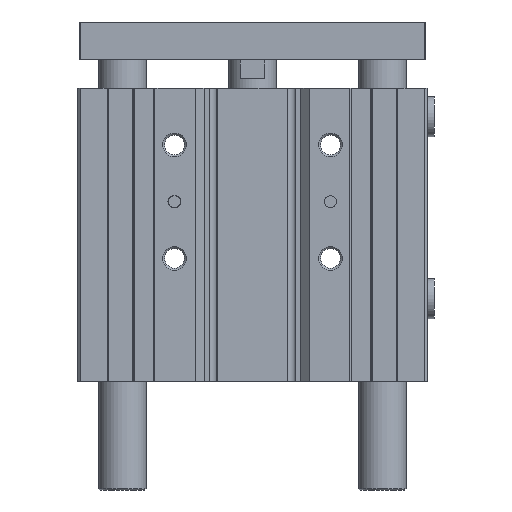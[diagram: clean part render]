
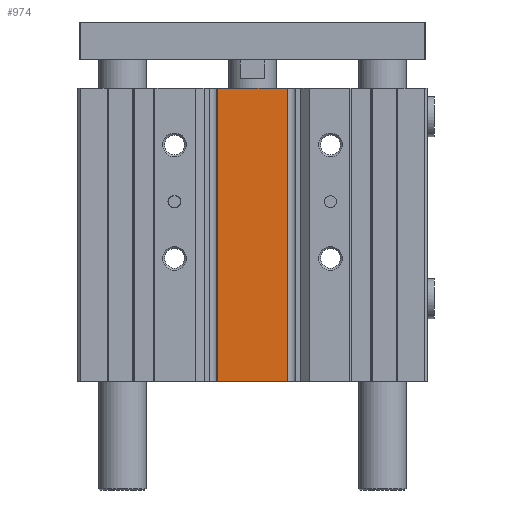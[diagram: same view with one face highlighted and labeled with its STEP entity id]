
A CAD part, left-side view. The second image highlights one B-rep face of the part: STEP entity #974.
In plain terms, the highlighted planar face has unit normal (-1, 0, 0).
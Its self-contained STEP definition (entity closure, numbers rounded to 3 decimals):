
#974 = ADVANCED_FACE( '', ( #2083 ), #2084, .T. );
#2083 = FACE_OUTER_BOUND( '', #3280, .T. );
#2084 = PLANE( '', #3281 );
#3280 = EDGE_LOOP( '', ( #5872, #5873, #5874, #5875 ) );
#3281 = AXIS2_PLACEMENT_3D( '', #5876, #5877, #5878 );
#5872 = ORIENTED_EDGE( '', *, *, #7078, .F. );
#5873 = ORIENTED_EDGE( '', *, *, #6547, .F. );
#5874 = ORIENTED_EDGE( '', *, *, #7301, .T. );
#5875 = ORIENTED_EDGE( '', *, *, #7514, .T. );
#5876 = CARTESIAN_POINT( '', ( -28.5, 14.7, -124. ) );
#5877 = DIRECTION( '', ( -1., 0., 0. ) );
#5878 = DIRECTION( '', ( 0., -1., 0. ) );
#6547 = EDGE_CURVE( '', #7699, #7695, #7701, .T. );
#7078 = EDGE_CURVE( '', #7695, #8570, #8571, .T. );
#7301 = EDGE_CURVE( '', #7699, #8887, #8889, .T. );
#7514 = EDGE_CURVE( '', #8887, #8570, #9161, .T. );
#7695 = VERTEX_POINT( '', #9388 );
#7699 = VERTEX_POINT( '', #9393 );
#7701 = LINE( '', #9395, #9396 );
#8570 = VERTEX_POINT( '', #10640 );
#8571 = LINE( '', #10641, #10642 );
#8887 = VERTEX_POINT( '', #11085 );
#8889 = LINE( '', #11087, #11088 );
#9161 = LINE( '', #11502, #11503 );
#9388 = CARTESIAN_POINT( '', ( -28.5, 14.7, 0. ) );
#9393 = CARTESIAN_POINT( '', ( -28.5, 14.7, -124. ) );
#9395 = CARTESIAN_POINT( '', ( -28.5, 14.7, -124. ) );
#9396 = VECTOR( '', #11710, 1000. );
#10640 = CARTESIAN_POINT( '', ( -28.5, -14.7, 0. ) );
#10641 = CARTESIAN_POINT( '', ( -28.5, 14.7, 0. ) );
#10642 = VECTOR( '', #12408, 1000. );
#11085 = CARTESIAN_POINT( '', ( -28.5, -14.7, -124. ) );
#11087 = CARTESIAN_POINT( '', ( -28.5, 14.7, -124. ) );
#11088 = VECTOR( '', #12670, 1000. );
#11502 = CARTESIAN_POINT( '', ( -28.5, -14.7, -124. ) );
#11503 = VECTOR( '', #12877, 1000. );
#11710 = DIRECTION( '', ( 0., 0., 1. ) );
#12408 = DIRECTION( '', ( 0., -1., 0. ) );
#12670 = DIRECTION( '', ( 0., -1., 0. ) );
#12877 = DIRECTION( '', ( 0., 0., 1. ) );
